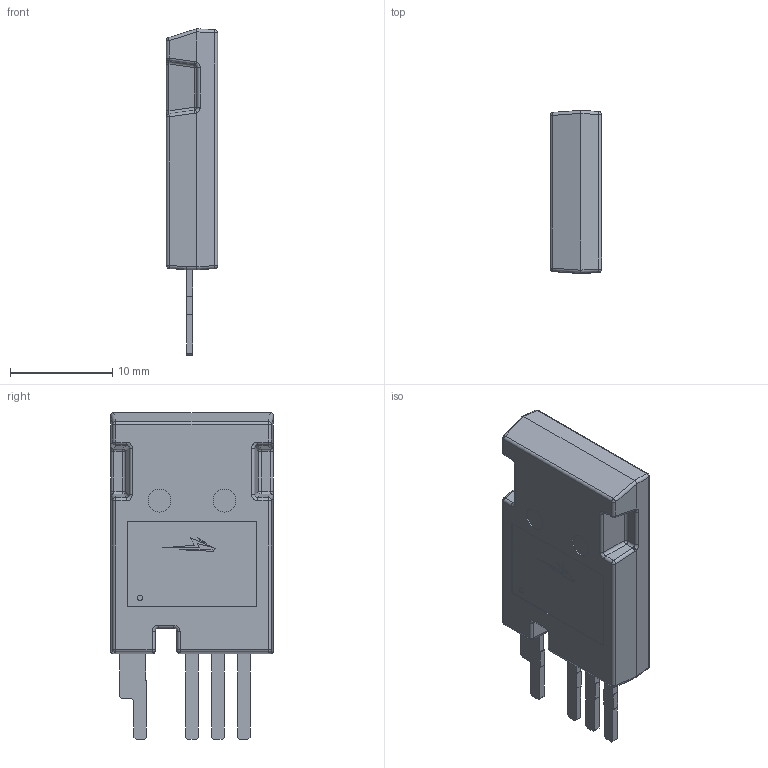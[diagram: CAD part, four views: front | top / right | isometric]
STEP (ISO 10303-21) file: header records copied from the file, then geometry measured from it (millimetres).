
FILE_DESCRIPTION(/* description */ (''),/* implementation_level */ '2;1');
FILE_NAME(/* name */ 'C:\Users\k\Desktop\TO 247-4 H=27.97 WolfSPeed\1.stp',/* time_stamp */ '2021-10-29T14:37:14+02:00',/* author */ ('k'),/* organization */ (''),/* preprocessor_version */ 'ST-DEVELOPER v15.6',/* originating_system */ 'Autodesk Inventor 2015',/* authorisation */ '');
FILE_SCHEMA (('AUTOMOTIVE_DESIGN { 1 0 10303 214 3 1 1 }'));
Length unit declared in the file: millimetre
Products named in the file (6): 1; 2; 3; 4; Wolf Speed Logo
Bounding box: 5.02 x 15.94 x 31.97 mm (x, y, z)
Volume: 1785.4 mm3; surface area: 1934.2 mm2
Topology: 13 solids, 13 shells, 251 faces, 578 edges, 356 vertices
Faces by surface type: plane 142, cylinder 63, bspline 22, sphere 20, torus 4
Full cylindrical faces by diameter (mm): 0.547 x1, 2.235 x4
Entity records: 7480 total; most frequent: CARTESIAN_POINT 1723, DIRECTION 1157, ORIENTED_EDGE 1146, EDGE_CURVE 573, LINE 401, VECTOR 401, AXIS2_PLACEMENT_3D 378, VERTEX_POINT 356
